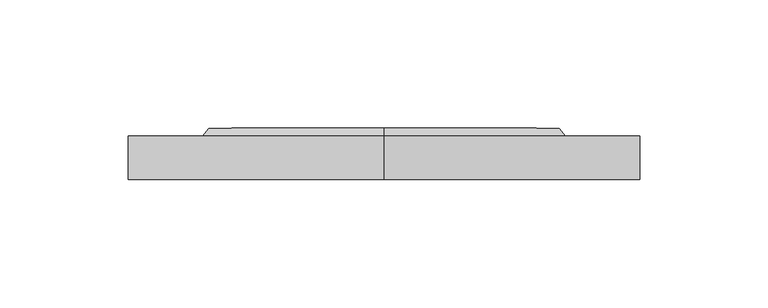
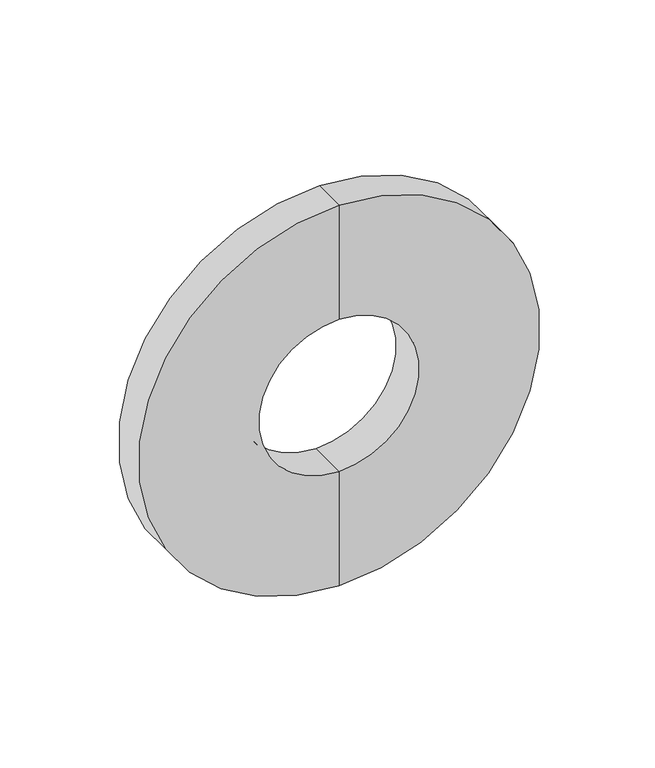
"""IFC4 building model written with IfcOpenShell, lengths in millimetres: pipe fitting geometry, Фланец : Фланец."""

from ifc_helpers import new_model, si_unit, frame, origin, place, context, project, spatial, polyline, circle_curve, source, transform, mapped, element, save
from ifc_brep_helpers import plane_surface, cylinder_surface, revolved_surface, advanced_brep


def pipe_fitting_5c22ef08(model_context):
    return source(origin(), model_context, "Body", "AdvancedBrep", [
        advanced_brep(
        [(0.0, 0.0, -100.0), (0.0, 0.0, 100.0), (0.0, 17.0, 100.0), (0.0, 17.0, -100.0), (0.0, 0.0, -40.0), (0.0, 0.0, 40.0), (0.0, 20.0, -40.0), (0.0, 20.0, 40.0), (0.0, 20.0, -68.5), (0.0, 20.0, 68.5), (0.0, 17.0, -71.0), (0.0, 17.0, 71.0)],
        [
            (0, 1, circle_curve(frame((0.0, 0.0, 0.0), z_axis=(0.0, 1.0, 0.0), x_axis=(0.0, 0.0, 1.0)), 100.0)),
            (1, 2),
            (2, 3, circle_curve(frame((0.0, 17.0, 0.0), z_axis=(0.0, -1.0, 0.0), x_axis=(0.0, 0.0, 1.0)), 100.0)),
            (3, 0),
            (1, 0, circle_curve(frame((0.0, 0.0, 0.0), z_axis=(0.0, 1.0, 0.0), x_axis=(0.0, 0.0, 1.0)), 100.0)),
            (3, 2, circle_curve(frame((0.0, 17.0, 0.0), z_axis=(0.0, -1.0, 0.0), x_axis=(0.0, 0.0, 1.0)), 100.0)),
            (4, 5, circle_curve(frame((0.0, 0.0, 0.0), z_axis=(0.0, 1.0, 0.0), x_axis=(0.0, 0.0, 1.0)), 40.0)),
            (5, 1),
            (0, 4),
            (5, 4, circle_curve(frame((0.0, 0.0, 0.0), z_axis=(0.0, 1.0, 0.0), x_axis=(0.0, 0.0, 1.0)), 40.0)),
            (6, 7, circle_curve(frame((0.0, 20.0, 0.0), z_axis=(0.0, 1.0, 0.0), x_axis=(0.0, 0.0, 1.0)), 40.0)),
            (7, 5),
            (4, 6),
            (7, 6, circle_curve(frame((0.0, 20.0, 0.0), z_axis=(0.0, 1.0, 0.0), x_axis=(0.0, 0.0, 1.0)), 40.0)),
            (8, 9, circle_curve(frame((0.0, 20.0, 0.0), z_axis=(0.0, 1.0, 0.0), x_axis=(0.0, 0.0, 1.0)), 68.5)),
            (9, 7),
            (6, 8),
            (9, 8, circle_curve(frame((0.0, 20.0, 0.0), z_axis=(0.0, 1.0, 0.0), x_axis=(0.0, 0.0, 1.0)), 68.5)),
            (10, 11, circle_curve(frame((0.0, 17.0, 0.0), z_axis=(0.0, 1.0, 0.0), x_axis=(0.0, 0.0, 1.0)), 71.0)),
            (11, 9),
            (8, 10),
            (11, 10, circle_curve(frame((0.0, 17.0, 0.0), z_axis=(0.0, 1.0, 0.0), x_axis=(0.0, 0.0, 1.0)), 71.0)),
            (2, 11),
            (10, 3),
        ],
        [
            cylinder_surface(frame((0.0, -60.0, 0.0), z_axis=(0.0, -1.0, 0.0), x_axis=(0.0, 0.0, 1.0)), 100.0),
            plane_surface(frame((0.0, 0.0, 0.0), z_axis=(0.0, -1.0, 0.0), x_axis=(0.0, 0.0, 1.0))),
            revolved_surface(polyline([(0.0, 0.0, 40.0), (0.0, 20.0, 40.0)]), (0.0, -60.0, 0.0), (0.0, -1.0, 0.0)),
            plane_surface(frame((0.0, 20.0, 0.0), z_axis=(0.0, 1.0, 0.0), x_axis=(0.0, 0.0, 1.0))),
            revolved_surface(polyline([(0.0, 20.0, 68.5), (0.0, 17.0, 71.0)]), (0.0, -60.0, 0.0), (0.0, -1.0, 0.0)),
            plane_surface(frame((0.0, 17.0, 0.0), z_axis=(0.0, 1.0, 0.0), x_axis=(0.0, 0.0, 1.0))),
        ],
        [
            (0, [[1, 2, 3, 4]]),
            (0, [[5, -4, 6, -2]]),
            (1, [[7, 8, -1, 9]]),
            (1, [[10, -9, -5, -8]]),
            (2, [[11, 12, -7, 13]]),
            (2, [[14, -13, -10, -12]]),
            (3, [[15, 16, -11, 17]]),
            (3, [[18, -17, -14, -16]]),
            (4, [[19, 20, -15, 21]]),
            (4, [[22, -21, -18, -20]]),
            (5, [[-3, 23, -19, 24]]),
            (5, [[-6, -24, -22, -23]]),
        ],
    ),
    ])


if __name__ == "__main__":
    model = new_model("IFC4")
    model_context = context("Model", 3, world=origin())
    ifc_project = project(units=[si_unit("LENGTHUNIT", "METRE", prefix="MILLI")], contexts=[model_context])
    site = spatial("IfcSite", under=ifc_project)
    building = spatial("IfcBuilding", under=site)
    placement = place(None, origin())
    pipe_fitting_shape = pipe_fitting_5c22ef08(model_context)
    element("IfcPipeFitting", 1, ObjectType="Фланец : Фланец", at=placement, inside=building, context=model_context, shape_type="MappedRepresentation", body=[
        mapped(pipe_fitting_shape, transform((0.0, 0.0, 0.0), x_axis=(1.0, 0.0, 0.0), y_axis=(0.0, 1.0, 0.0), z_axis=(0.0, 0.0, 1.0))),
    ])
    save(model, "model.ifc")
